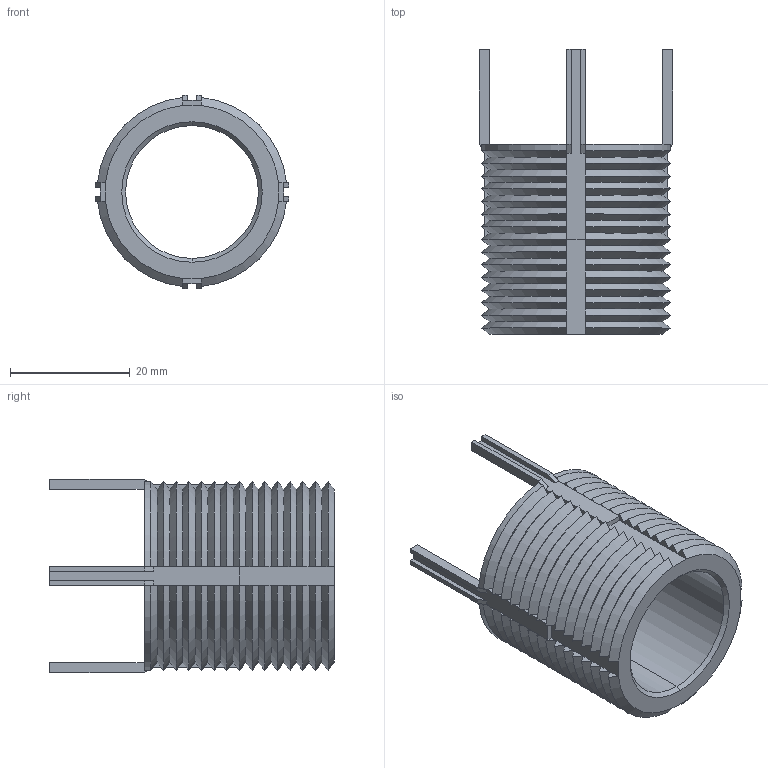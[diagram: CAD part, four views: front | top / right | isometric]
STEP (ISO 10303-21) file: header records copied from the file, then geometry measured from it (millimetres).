
FILE_DESCRIPTION (( 'STEP AP203' ), '1' );
FILE_NAME ('TR1565.66510.step', '2023-03-29T14:34:37', ( '' ), ( '' ), 'SwSTEP 2.0', 'SolidWorks 2019', '' );
FILE_SCHEMA (( 'CONFIG_CONTROL_DESIGN' ));
Length unit declared in the file: inch
Products named in the file (3): Part2_TR1565.66510; TR1565.66510; Part1_TR1565.66510
Assembly tree (5 placements, depth 2):
  TR1565.66510
    Part1_TR1565.66510
    Part2_TR1565.66510  x4
Bounding box: 32.32 x 47.62 x 32.32 mm (x, y, z)
Volume: 10955.7 mm3; surface area: 8842.9 mm2
Topology: 5 solids, 5 shells, 300 faces, 634 edges, 344 vertices
Faces by surface type: plane 174, cone 120, cylinder 6
Entity records: 7971 total; most frequent: CARTESIAN_POINT 2492, ORIENTED_EDGE 1088, DIRECTION 988, EDGE_CURVE 544, AXIS2_PLACEMENT_3D 404, VERTEX_POINT 284, EDGE_LOOP 266, ADVANCED_FACE 264
